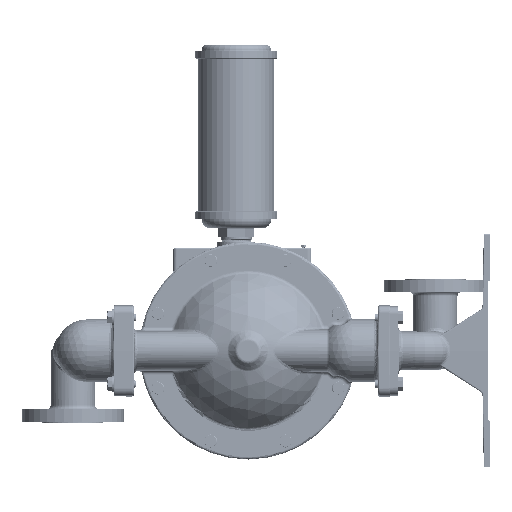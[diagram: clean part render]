
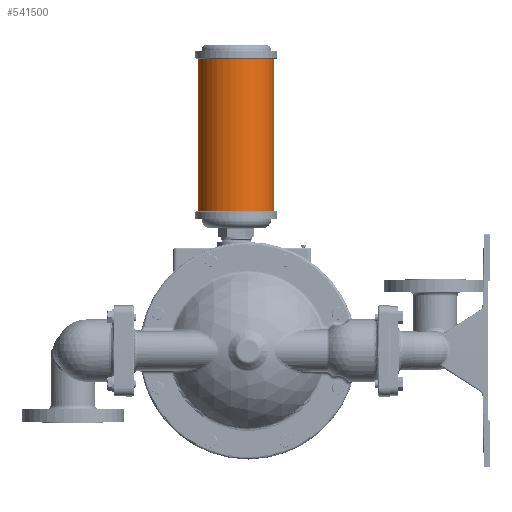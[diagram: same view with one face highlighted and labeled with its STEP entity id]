
A CAD part, left-side view. The second image highlights one B-rep face of the part: STEP entity #541500.
In plain terms, the highlighted cylindrical face has radius 61.722 mm (diameter 123.444 mm), a partial arc.
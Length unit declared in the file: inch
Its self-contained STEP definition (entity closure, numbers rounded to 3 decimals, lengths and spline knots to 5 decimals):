
#18313 = DIRECTION ( 'NONE',  ( 0., 0., 1. ) ) ;
#46644 = AXIS2_PLACEMENT_3D ( 'NONE', #305474, #172974, #499575 ) ;
#56564 = CARTESIAN_POINT ( 'NONE',  ( 0., -1.68, 18.685 ) ) ;
#62852 = CIRCLE ( 'NONE', #229887, 2.43 ) ;
#68448 = ORIENTED_EDGE ( 'NONE', *, *, #558541, .T. ) ;
#85934 = ORIENTED_EDGE ( 'NONE', *, *, #336255, .F. ) ;
#110700 = DIRECTION ( 'NONE',  ( 0., 1., 0. ) ) ;
#126858 = LINE ( 'NONE', #323855, #439744 ) ;
#126981 = VECTOR ( 'NONE', #131865, 39.37008 ) ;
#131865 = DIRECTION ( 'NONE',  ( 0., 0., 1. ) ) ;
#134815 = EDGE_LOOP ( 'NONE', ( #459981, #68448, #85934, #463058 ) ) ;
#144391 = CIRCLE ( 'NONE', #370834, 2.43 ) ;
#145052 = CARTESIAN_POINT ( 'NONE',  ( 0., 3.18, 18.685 ) ) ;
#172974 = DIRECTION ( 'NONE',  ( 0., 0., -1. ) ) ;
#175071 = VERTEX_POINT ( 'NONE', #374259 ) ;
#176003 = FACE_OUTER_BOUND ( 'NONE', #134815, .T. ) ;
#200652 = EDGE_CURVE ( 'NONE', #175071, #224613, #144391, .T. ) ;
#207565 = DIRECTION ( 'NONE',  ( 0., 0., 1. ) ) ;
#224295 = LINE ( 'NONE', #557027, #126981 ) ;
#224613 = VERTEX_POINT ( 'NONE', #365146 ) ;
#229887 = AXIS2_PLACEMENT_3D ( 'NONE', #538879, #18313, #110700 ) ;
#293021 = VERTEX_POINT ( 'NONE', #56564 ) ;
#305474 = CARTESIAN_POINT ( 'NONE',  ( 0., 0.75, 20.1725 ) ) ;
#323855 = CARTESIAN_POINT ( 'NONE',  ( 0., 3.18, 8.905 ) ) ;
#336255 = EDGE_CURVE ( 'NONE', #484080, #293021, #62852, .T. ) ;
#365146 = CARTESIAN_POINT ( 'NONE',  ( 0., -1.68, 8.905 ) ) ;
#370834 = AXIS2_PLACEMENT_3D ( 'NONE', #484916, #207565, #534187 ) ;
#374259 = CARTESIAN_POINT ( 'NONE',  ( 0., 3.18, 8.905 ) ) ;
#439744 = VECTOR ( 'NONE', #511814, 39.37008 ) ;
#459981 = ORIENTED_EDGE ( 'NONE', *, *, #200652, .T. ) ;
#463058 = ORIENTED_EDGE ( 'NONE', *, *, #540211, .F. ) ;
#484080 = VERTEX_POINT ( 'NONE', #145052 ) ;
#484916 = CARTESIAN_POINT ( 'NONE',  ( 0., 0.75, 8.905 ) ) ;
#499575 = DIRECTION ( 'NONE',  ( 0., -1., 0. ) ) ;
#511814 = DIRECTION ( 'NONE',  ( 0., 0., 1. ) ) ;
#534187 = DIRECTION ( 'NONE',  ( 0., 1., 0. ) ) ;
#538879 = CARTESIAN_POINT ( 'NONE',  ( 0., 0.75, 18.685 ) ) ;
#540211 = EDGE_CURVE ( 'NONE', #175071, #484080, #126858, .T. ) ;
#541500 = ADVANCED_FACE ( 'NONE', ( #176003 ), #585959, .T. ) ;
#557027 = CARTESIAN_POINT ( 'NONE',  ( 0., -1.68, 8.905 ) ) ;
#558541 = EDGE_CURVE ( 'NONE', #224613, #293021, #224295, .T. ) ;
#585959 = CYLINDRICAL_SURFACE ( 'NONE', #46644, 2.43 ) ;
